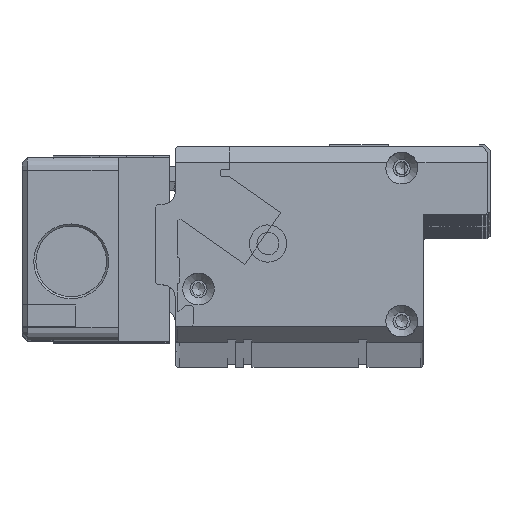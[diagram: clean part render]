
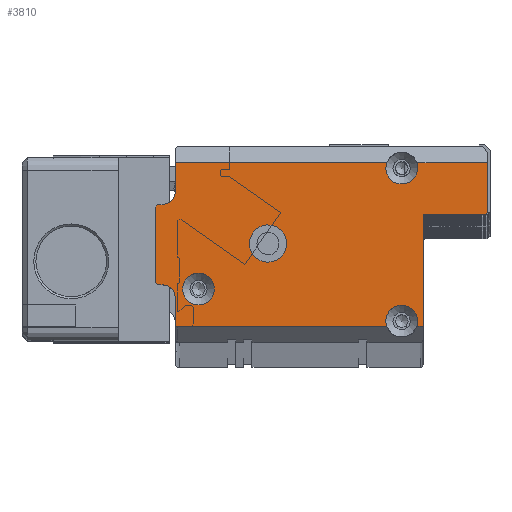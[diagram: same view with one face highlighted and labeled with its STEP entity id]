
A CAD part, top view. The second image highlights one B-rep face of the part: STEP entity #3810.
In plain terms, the highlighted planar face has unit normal (0, 0, 1).
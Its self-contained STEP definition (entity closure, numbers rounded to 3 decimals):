
#1199=FACE_BOUND('',#7585,.T.);
#1200=FACE_BOUND('',#7586,.T.);
#1201=FACE_BOUND('',#7587,.T.);
#2272=CIRCLE('',#30728,3.);
#2273=CIRCLE('',#30729,3.);
#2274=CIRCLE('',#30730,0.5);
#2275=CIRCLE('',#30731,0.5);
#2276=CIRCLE('',#30732,3.);
#2277=CIRCLE('',#30733,2.5);
#2278=CIRCLE('',#30734,0.5);
#2279=CIRCLE('',#30735,0.5);
#2280=CIRCLE('',#30736,2.5);
#2281=CIRCLE('',#30737,3.5);
#3810=ADVANCED_FACE('',(#1199,#1200,#1201),#4718,.T.);
#4718=PLANE('',#30738);
#7585=EDGE_LOOP('',(#20953));
#7586=EDGE_LOOP('',(#20954,#20955,#20956,#20957,#20958,#20959,#20960,#20961,
#20962,#20963,#20964,#20965,#20966,#20967,#20968,#20969,#20970,#20971,#20972,
#20973));
#7587=EDGE_LOOP('',(#20974));
#10227=LINE('',#48602,#12891);
#10228=LINE('',#48604,#12892);
#10229=LINE('',#48608,#12893);
#10230=LINE('',#48612,#12894);
#10231=LINE('',#48614,#12895);
#10232=LINE('',#48618,#12896);
#10233=LINE('',#48620,#12897);
#10234=LINE('',#48624,#12898);
#10235=LINE('',#48628,#12899);
#10236=LINE('',#48632,#12900);
#10237=LINE('',#48636,#12901);
#10238=LINE('',#48638,#12902);
#12891=VECTOR('',#38655,1.);
#12892=VECTOR('',#38656,1.);
#12893=VECTOR('',#38659,1.);
#12894=VECTOR('',#38662,1.);
#12895=VECTOR('',#38663,1.);
#12896=VECTOR('',#38666,1.);
#12897=VECTOR('',#38667,1.);
#12898=VECTOR('',#38670,1.);
#12899=VECTOR('',#38673,1.);
#12900=VECTOR('',#38676,1.);
#12901=VECTOR('',#38679,1.);
#12902=VECTOR('',#38680,1.);
#20953=ORIENTED_EDGE('',*,*,#27968,.T.);
#20954=ORIENTED_EDGE('',*,*,#27969,.T.);
#20955=ORIENTED_EDGE('',*,*,#27970,.T.);
#20956=ORIENTED_EDGE('',*,*,#27971,.T.);
#20957=ORIENTED_EDGE('',*,*,#27972,.T.);
#20958=ORIENTED_EDGE('',*,*,#27973,.T.);
#20959=ORIENTED_EDGE('',*,*,#27974,.T.);
#20960=ORIENTED_EDGE('',*,*,#27975,.T.);
#20961=ORIENTED_EDGE('',*,*,#27976,.T.);
#20962=ORIENTED_EDGE('',*,*,#27977,.T.);
#20963=ORIENTED_EDGE('',*,*,#27978,.T.);
#20964=ORIENTED_EDGE('',*,*,#27979,.T.);
#20965=ORIENTED_EDGE('',*,*,#27980,.T.);
#20966=ORIENTED_EDGE('',*,*,#27981,.T.);
#20967=ORIENTED_EDGE('',*,*,#27982,.T.);
#20968=ORIENTED_EDGE('',*,*,#27983,.T.);
#20969=ORIENTED_EDGE('',*,*,#27984,.T.);
#20970=ORIENTED_EDGE('',*,*,#27985,.T.);
#20971=ORIENTED_EDGE('',*,*,#27986,.T.);
#20972=ORIENTED_EDGE('',*,*,#27987,.T.);
#20973=ORIENTED_EDGE('',*,*,#27988,.T.);
#20974=ORIENTED_EDGE('',*,*,#27989,.T.);
#23894=VERTEX_POINT('',#48598);
#23895=VERTEX_POINT('',#48600);
#23896=VERTEX_POINT('',#48601);
#23897=VERTEX_POINT('',#48603);
#23898=VERTEX_POINT('',#48605);
#23899=VERTEX_POINT('',#48607);
#23900=VERTEX_POINT('',#48609);
#23901=VERTEX_POINT('',#48611);
#23902=VERTEX_POINT('',#48613);
#23903=VERTEX_POINT('',#48615);
#23904=VERTEX_POINT('',#48617);
#23905=VERTEX_POINT('',#48619);
#23906=VERTEX_POINT('',#48621);
#23907=VERTEX_POINT('',#48623);
#23908=VERTEX_POINT('',#48625);
#23909=VERTEX_POINT('',#48627);
#23910=VERTEX_POINT('',#48629);
#23911=VERTEX_POINT('',#48631);
#23912=VERTEX_POINT('',#48633);
#23913=VERTEX_POINT('',#48635);
#23914=VERTEX_POINT('',#48637);
#23915=VERTEX_POINT('',#48640);
#27968=EDGE_CURVE('',#23894,#23894,#2272,.T.);
#27969=EDGE_CURVE('',#23895,#23896,#2273,.T.);
#27970=EDGE_CURVE('',#23896,#23897,#10227,.T.);
#27971=EDGE_CURVE('',#23897,#23898,#10228,.T.);
#27972=EDGE_CURVE('',#23898,#23899,#2274,.T.);
#27973=EDGE_CURVE('',#23899,#23900,#10229,.T.);
#27974=EDGE_CURVE('',#23900,#23901,#2275,.T.);
#27975=EDGE_CURVE('',#23901,#23902,#10230,.T.);
#27976=EDGE_CURVE('',#23902,#23903,#10231,.T.);
#27977=EDGE_CURVE('',#23903,#23904,#2276,.T.);
#27978=EDGE_CURVE('',#23904,#23905,#10232,.T.);
#27979=EDGE_CURVE('',#23905,#23906,#10233,.T.);
#27980=EDGE_CURVE('',#23906,#23907,#2277,.T.);
#27981=EDGE_CURVE('',#23907,#23908,#10234,.T.);
#27982=EDGE_CURVE('',#23908,#23909,#2278,.T.);
#27983=EDGE_CURVE('',#23909,#23910,#10235,.T.);
#27984=EDGE_CURVE('',#23910,#23911,#2279,.T.);
#27985=EDGE_CURVE('',#23911,#23912,#10236,.T.);
#27986=EDGE_CURVE('',#23912,#23913,#2280,.T.);
#27987=EDGE_CURVE('',#23913,#23914,#10237,.T.);
#27988=EDGE_CURVE('',#23914,#23895,#10238,.T.);
#27989=EDGE_CURVE('',#23915,#23915,#2281,.T.);
#30728=AXIS2_PLACEMENT_3D('',#48597,#38651,#38652);
#30729=AXIS2_PLACEMENT_3D('',#48599,#38653,#38654);
#30730=AXIS2_PLACEMENT_3D('',#48606,#38657,#38658);
#30731=AXIS2_PLACEMENT_3D('',#48610,#38660,#38661);
#30732=AXIS2_PLACEMENT_3D('',#48616,#38664,#38665);
#30733=AXIS2_PLACEMENT_3D('',#48622,#38668,#38669);
#30734=AXIS2_PLACEMENT_3D('',#48626,#38671,#38672);
#30735=AXIS2_PLACEMENT_3D('',#48630,#38674,#38675);
#30736=AXIS2_PLACEMENT_3D('',#48634,#38677,#38678);
#30737=AXIS2_PLACEMENT_3D('',#48639,#38681,#38682);
#30738=AXIS2_PLACEMENT_3D('',#48641,#38683,#38684);
#38651=DIRECTION('',(0.,0.,-1.));
#38652=DIRECTION('',(-1.,0.,0.));
#38653=DIRECTION('',(0.,0.,-1.));
#38654=DIRECTION('',(-1.,0.,0.));
#38655=DIRECTION('',(1.,0.,0.));
#38656=DIRECTION('',(0.,1.,0.));
#38657=DIRECTION('',(0.,0.,-1.));
#38658=DIRECTION('',(1.,0.,0.));
#38659=DIRECTION('',(1.,0.,0.));
#38660=DIRECTION('',(0.,0.,1.));
#38661=DIRECTION('',(1.,0.,0.));
#38662=DIRECTION('',(0.,1.,0.));
#38663=DIRECTION('',(-1.,0.,0.));
#38664=DIRECTION('',(0.,0.,-1.));
#38665=DIRECTION('',(-1.,0.,0.));
#38666=DIRECTION('',(-1.,0.,0.));
#38667=DIRECTION('',(0.,-1.,0.));
#38668=DIRECTION('',(0.,0.,-1.));
#38669=DIRECTION('',(1.,0.,0.));
#38670=DIRECTION('',(-1.,0.,0.));
#38671=DIRECTION('',(0.,0.,1.));
#38672=DIRECTION('',(1.,0.,0.));
#38673=DIRECTION('',(0.,-1.,0.));
#38674=DIRECTION('',(0.,0.,1.));
#38675=DIRECTION('',(1.,0.,0.));
#38676=DIRECTION('',(1.,0.,0.));
#38677=DIRECTION('',(0.,0.,-1.));
#38678=DIRECTION('',(1.,0.,0.));
#38679=DIRECTION('',(0.,-1.,0.));
#38680=DIRECTION('',(1.,0.,0.));
#38681=DIRECTION('',(0.,0.,-1.));
#38682=DIRECTION('',(-1.,0.,0.));
#38683=DIRECTION('',(0.,0.,1.));
#38684=DIRECTION('',(-1.,0.,0.));
#48597=CARTESIAN_POINT('',(8.,-26.6,8.));
#48598=CARTESIAN_POINT('',(5.,-26.6,8.));
#48599=CARTESIAN_POINT('',(46.,-32.6,8.));
#48600=CARTESIAN_POINT('',(43.172,-33.6,8.));
#48601=CARTESIAN_POINT('',(48.828,-33.6,8.));
#48602=CARTESIAN_POINT('',(50.,-33.6,8.));
#48603=CARTESIAN_POINT('',(50.,-33.6,8.));
#48604=CARTESIAN_POINT('',(50.,-36.6,8.));
#48605=CARTESIAN_POINT('',(50.,-13.1,8.));
#48606=CARTESIAN_POINT('',(50.5,-13.1,8.));
#48607=CARTESIAN_POINT('',(50.5,-12.6,8.));
#48608=CARTESIAN_POINT('',(50.,-12.6,8.));
#48609=CARTESIAN_POINT('',(61.6,-12.6,8.));
#48610=CARTESIAN_POINT('',(61.6,-12.1,8.));
#48611=CARTESIAN_POINT('',(62.1,-12.1,8.));
#48612=CARTESIAN_POINT('',(62.1,-12.6,8.));
#48613=CARTESIAN_POINT('',(62.1,-3.,8.));
#48614=CARTESIAN_POINT('',(3.7,-3.,8.));
#48615=CARTESIAN_POINT('',(48.828,-3.,8.));
#48616=CARTESIAN_POINT('',(46.,-4.,8.));
#48617=CARTESIAN_POINT('',(43.172,-3.,8.));
#48618=CARTESIAN_POINT('',(3.7,-3.,8.));
#48619=CARTESIAN_POINT('',(3.7,-3.,8.));
#48620=CARTESIAN_POINT('',(3.7,0.,8.));
#48621=CARTESIAN_POINT('',(3.7,-8.3,8.));
#48622=CARTESIAN_POINT('',(1.2,-8.3,8.));
#48623=CARTESIAN_POINT('',(1.2,-10.8,8.));
#48624=CARTESIAN_POINT('',(3.7,-10.8,8.));
#48625=CARTESIAN_POINT('',(0.5,-10.8,8.));
#48626=CARTESIAN_POINT('',(0.5,-11.3,8.));
#48627=CARTESIAN_POINT('',(0.,-11.3,8.));
#48628=CARTESIAN_POINT('',(0.,-10.8,8.));
#48629=CARTESIAN_POINT('',(0.,-25.3,8.));
#48630=CARTESIAN_POINT('',(0.5,-25.3,8.));
#48631=CARTESIAN_POINT('',(0.5,-25.8,8.));
#48632=CARTESIAN_POINT('',(0.,-25.8,8.));
#48633=CARTESIAN_POINT('',(1.2,-25.8,8.));
#48634=CARTESIAN_POINT('',(1.2,-28.3,8.));
#48635=CARTESIAN_POINT('',(3.7,-28.3,8.));
#48636=CARTESIAN_POINT('',(3.7,-25.8,8.));
#48637=CARTESIAN_POINT('',(3.7,-33.6,8.));
#48638=CARTESIAN_POINT('',(50.,-33.6,8.));
#48639=CARTESIAN_POINT('',(21.,-18.1,8.));
#48640=CARTESIAN_POINT('',(17.5,-18.1,8.));
#48641=CARTESIAN_POINT('',(0.,0.,8.));
